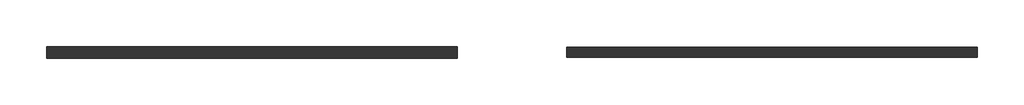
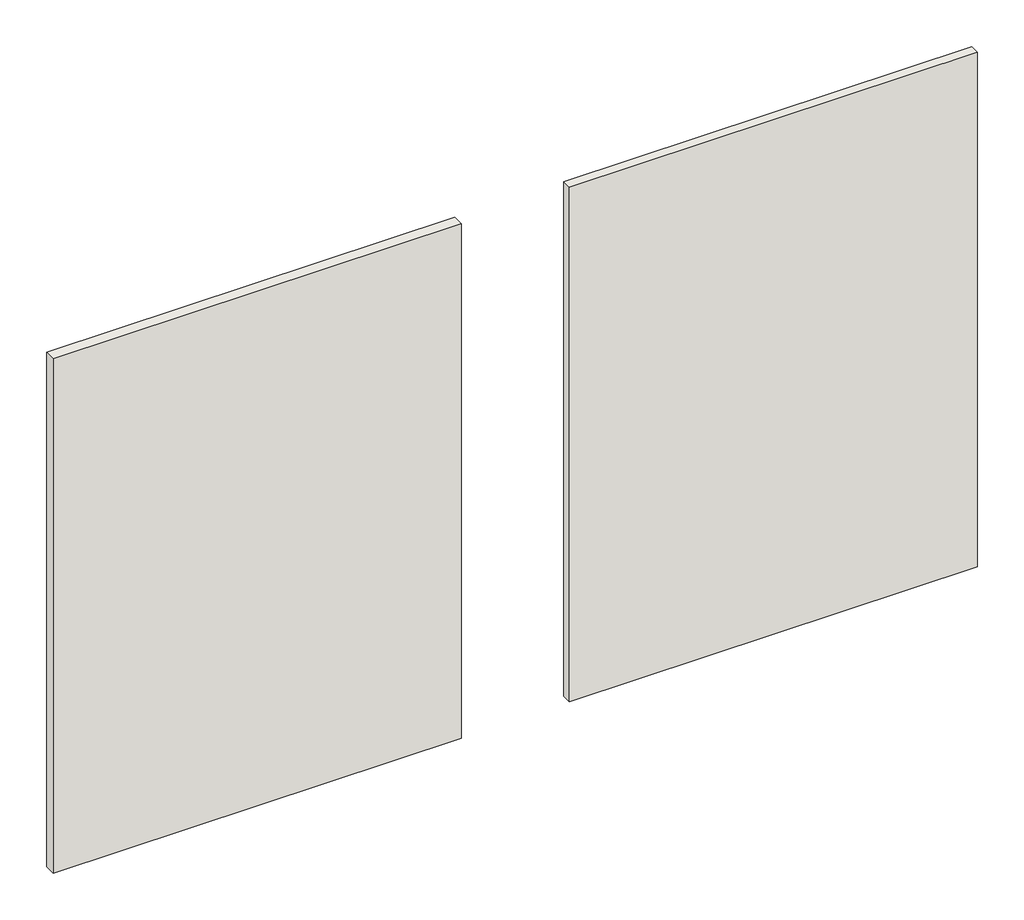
# One storey: 2 walls.
"""IFC4 building model written with IfcOpenShell, lengths in millimetres."""

from ifc_helpers import new_model, si_unit, origin, origin_with_axes, place, context, project, spatial, polyline, outline, extrude, element, save

model = new_model("IFC4")

# Units and contexts
model_context = context("Model", 3, world=origin())
ifc_project = project(units=[si_unit("LENGTHUNIT", "METRE", prefix="MILLI")], contexts=[model_context])

# Site, building, storey
site = spatial("IfcSite", under=ifc_project)
building = spatial("IfcBuilding", under=site)
storey = spatial("IfcBuildingStorey", under=building, Name="Уровень 1", Elevation=0.0)

# Walls
placement = place(None, origin())
element("IfcWall", 1, ObjectType="Облицовка КНАУФ С683 Применение внутри здания ПП60/27 ПН28х27 с двуслойной облицовкой Аквапанель 12.5", at=placement, inside=storey, context=model_context, shape_type="SweptSolid", body=[
    extrude(outline(polyline([(1642.996649, 646.9846924), (-1357.003351, 646.9846924), (-1357.003351, 731.9846924), (1642.996649, 731.9846924), (1642.996649, 646.9846924)])), origin_with_axes(), (0.0, 0.0, 1.0), 4000.0),
])
element("IfcWall", 2, ObjectType="Облицовка КНАУФ С683 Применение внутри здания ПП60/27 ПН28х27 с однослойной облицовкой Аквапанель 12.5", at=placement, inside=storey, context=model_context, shape_type="SweptSolid", body=[
    extrude(outline(polyline([(5442.996649, 653.2346924), (2442.996649, 653.2346924), (2442.996649, 725.7346924), (5442.996649, 725.7346924), (5442.996649, 653.2346924)])), origin_with_axes(), (0.0, 0.0, 1.0), 4000.0),
])

save(model, "model.ifc")
